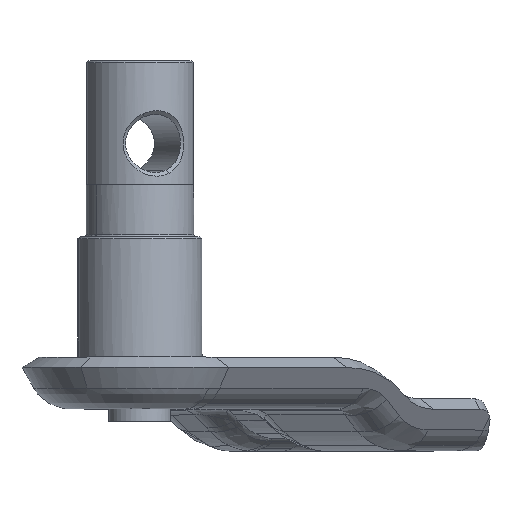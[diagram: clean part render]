
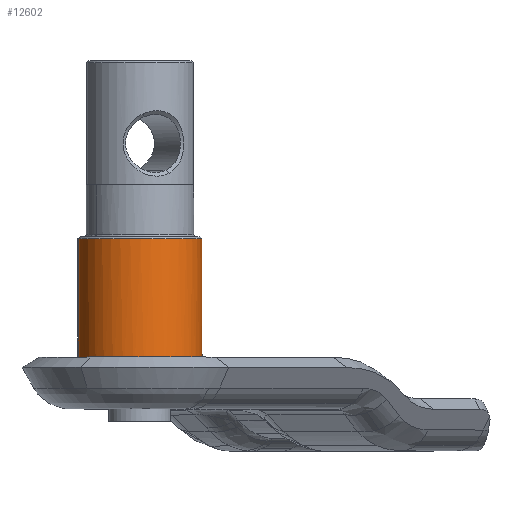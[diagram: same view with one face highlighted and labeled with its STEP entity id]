
A CAD part, top view. The second image highlights one B-rep face of the part: STEP entity #12602.
In plain terms, the highlighted cylindrical face has radius 15 mm (diameter 30 mm), a partial arc.
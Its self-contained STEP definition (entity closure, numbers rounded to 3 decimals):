
#12565=AXIS2_PLACEMENT_3D('Cylinder Axis2P3D',#12562,#12563,#12564) ;
#12576=AXIS2_PLACEMENT_3D('Circle Axis2P3D',#12574,#12575,$) ;
#12449=CARTESIAN_POINT('Vertex',(-19.764,-478.501,509.307)) ;
#12456=CARTESIAN_POINT('Vertex',(-49.763,-478.501,509.134)) ;
#12460=CARTESIAN_POINT('Control Point',(-49.763,-478.501,509.134)) ;
#12461=CARTESIAN_POINT('Control Point',(-49.763,-478.501,511.482)) ;
#12462=CARTESIAN_POINT('Control Point',(-49.303,-478.501,513.83)) ;
#12463=CARTESIAN_POINT('Control Point',(-48.384,-478.501,516.057)) ;
#12464=CARTESIAN_POINT('Control Point',(-45.725,-478.501,520.034)) ;
#12465=CARTESIAN_POINT('Control Point',(-41.764,-478.501,522.716)) ;
#12466=CARTESIAN_POINT('Control Point',(-39.541,-478.501,523.648)) ;
#12467=CARTESIAN_POINT('Control Point',(-34.851,-478.501,524.593)) ;
#12468=CARTESIAN_POINT('Control Point',(-30.151,-478.501,523.702)) ;
#12469=CARTESIAN_POINT('Control Point',(-27.918,-478.501,522.796)) ;
#12470=CARTESIAN_POINT('Control Point',(-23.926,-478.501,520.159)) ;
#12471=CARTESIAN_POINT('Control Point',(-21.221,-478.501,516.213)) ;
#12472=CARTESIAN_POINT('Control Point',(-20.277,-478.501,513.996)) ;
#12473=CARTESIAN_POINT('Control Point',(-19.791,-478.501,511.654)) ;
#12474=CARTESIAN_POINT('Control Point',(-19.764,-478.501,509.307)) ;
#12489=CARTESIAN_POINT('Control Point',(-19.764,-478.501,509.307)) ;
#12490=CARTESIAN_POINT('Control Point',(-19.763,-478.501,509.249)) ;
#12491=CARTESIAN_POINT('Control Point',(-19.763,-478.501,509.192)) ;
#12492=CARTESIAN_POINT('Control Point',(-19.763,-478.501,509.134)) ;
#12493=CARTESIAN_POINT('Vertex',(-19.763,-478.501,509.134)) ;
#12562=CARTESIAN_POINT('Axis2P3D Location',(-34.763,-468.251,509.134)) ;
#12567=CARTESIAN_POINT('Line Origine',(-49.763,-468.251,509.134)) ;
#12571=CARTESIAN_POINT('Vertex',(-49.763,-514.1,509.134)) ;
#12574=CARTESIAN_POINT('Axis2P3D Location',(-34.763,-514.1,509.134)) ;
#12578=CARTESIAN_POINT('Vertex',(-20.814,-514.1,514.652)) ;
#12582=CARTESIAN_POINT('Control Point',(-20.814,-514.1,514.652)) ;
#12583=CARTESIAN_POINT('Control Point',(-20.121,-514.1,512.9)) ;
#12584=CARTESIAN_POINT('Control Point',(-19.763,-514.1,511.018)) ;
#12585=CARTESIAN_POINT('Control Point',(-19.763,-514.1,509.134)) ;
#12586=CARTESIAN_POINT('Vertex',(-19.763,-514.1,509.134)) ;
#12589=CARTESIAN_POINT('Line Origine',(-19.763,-468.251,509.134)) ;
#12563=DIRECTION('Axis2P3D Direction',(0.,1.,0.)) ;
#12564=DIRECTION('Axis2P3D XDirection',(-1.,0.,0.)) ;
#12568=DIRECTION('Vector Direction',(0.,1.,0.)) ;
#12575=DIRECTION('Axis2P3D Direction',(0.,1.,0.)) ;
#12590=DIRECTION('Vector Direction',(0.,1.,0.)) ;
#12569=VECTOR('Line Direction',#12568,1.) ;
#12591=VECTOR('Line Direction',#12590,1.) ;
#12595=ORIENTED_EDGE('',*,*,#12573,.F.) ;
#12596=ORIENTED_EDGE('',*,*,#12580,.F.) ;
#12597=ORIENTED_EDGE('',*,*,#12588,.F.) ;
#12598=ORIENTED_EDGE('',*,*,#12593,.T.) ;
#12599=ORIENTED_EDGE('',*,*,#12495,.T.) ;
#12600=ORIENTED_EDGE('',*,*,#12475,.T.) ;
#12602=ADVANCED_FACE('\X2\51E04F554F53\X0\-B',(#12601),#12566,.T.) ;
#12459=B_SPLINE_CURVE_WITH_KNOTS('',5,(#12460,#12461,#12462,#12463,#12464,#12465,#12466,#12467,#12468,#12469,#12470,#12471,#12472,#12473,#12474),.UNSPECIFIED.,.F.,.U.,(6,3,3,3,6),(-156.506,-78.253,0.,78.253,156.506),.UNSPECIFIED.) ;
#12488=B_SPLINE_CURVE_WITH_KNOTS('',3,(#12489,#12490,#12491,#12492),.UNSPECIFIED.,.F.,.U.,(4,4),(-0.574,0.574),.UNSPECIFIED.) ;
#12581=B_SPLINE_CURVE_WITH_KNOTS('',3,(#12582,#12583,#12584,#12585),.UNSPECIFIED.,.F.,.U.,(4,4),(-2.825,2.825),.UNSPECIFIED.) ;
#12577=CIRCLE('generated circle',#12576,15.) ;
#12566=CYLINDRICAL_SURFACE('generated cylinder',#12565,15.) ;
#12475=EDGE_CURVE('',#12450,#12457,#12459,.F.) ;
#12495=EDGE_CURVE('',#12494,#12450,#12488,.F.) ;
#12573=EDGE_CURVE('',#12572,#12457,#12570,.T.) ;
#12580=EDGE_CURVE('',#12579,#12572,#12577,.F.) ;
#12588=EDGE_CURVE('',#12587,#12579,#12581,.F.) ;
#12593=EDGE_CURVE('',#12587,#12494,#12592,.T.) ;
#12594=EDGE_LOOP('',(#12595,#12596,#12597,#12598,#12599,#12600)) ;
#12601=FACE_OUTER_BOUND('',#12594,.T.) ;
#12570=LINE('Line',#12567,#12569) ;
#12592=LINE('Line',#12589,#12591) ;
#12450=VERTEX_POINT('',#12449) ;
#12457=VERTEX_POINT('',#12456) ;
#12494=VERTEX_POINT('',#12493) ;
#12572=VERTEX_POINT('',#12571) ;
#12579=VERTEX_POINT('',#12578) ;
#12587=VERTEX_POINT('',#12586) ;
